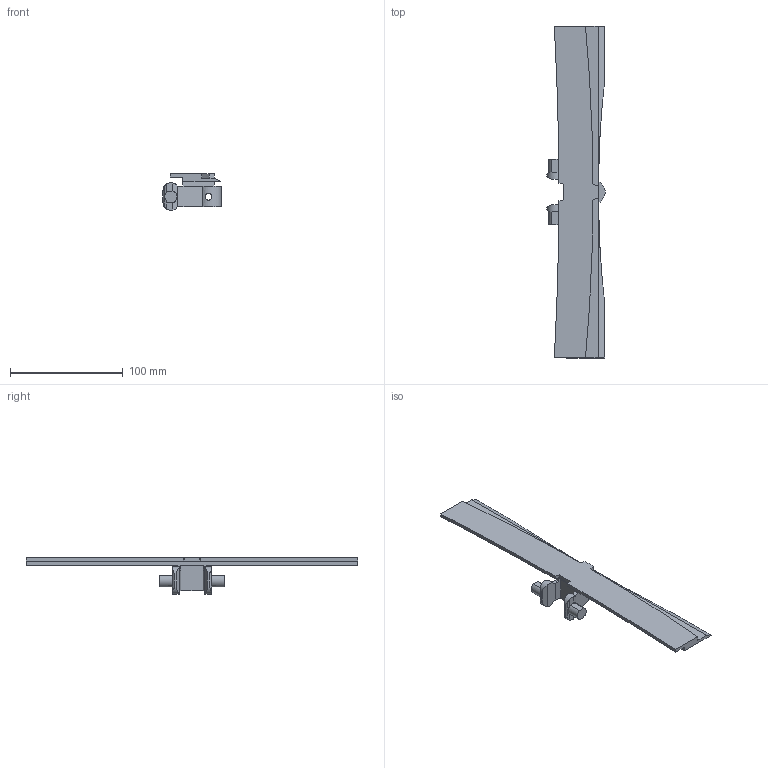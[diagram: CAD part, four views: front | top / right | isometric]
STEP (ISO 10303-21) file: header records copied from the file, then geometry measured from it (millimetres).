
FILE_DESCRIPTION(/* description */ ('FB300 Standardkette'),/* implementation_level */ '2;1');
FILE_NAME(/* name */ 'T:\tli0\3D-Daten für Website\F300\Kettenglieder\FBTP 3A295_48449.stp',/* time_stamp */ '2026-05-28T15:35:04+02:00',/* author */ ('Tli0'),/* organization */ (''),/* preprocessor_version */ 'ST-DEVELOPER v18.1',/* originating_system */ 'Autodesk Inventor 2021',/* authorisation */ '');
FILE_SCHEMA (('AUTOMOTIVE_DESIGN { 1 0 10303 214 3 1 1 }'));
Length unit declared in the file: millimetre
Products named in the file (1): FBTP 3A295
Bounding box: 51.56 x 295 x 32.5 mm (x, y, z)
Volume: 78507 mm3; surface area: 33343.7 mm2
Topology: 1 solids, 1 shells, 69 faces, 196 edges, 129 vertices
Faces by surface type: plane 43, cylinder 26
Full cylindrical faces by diameter (mm): 6 x1
Entity records: 2450 total; most frequent: CARTESIAN_POINT 631, ORIENTED_EDGE 392, DIRECTION 346, EDGE_CURVE 196, VERTEX_POINT 129, LINE 124, VECTOR 124, AXIS2_PLACEMENT_3D 111
